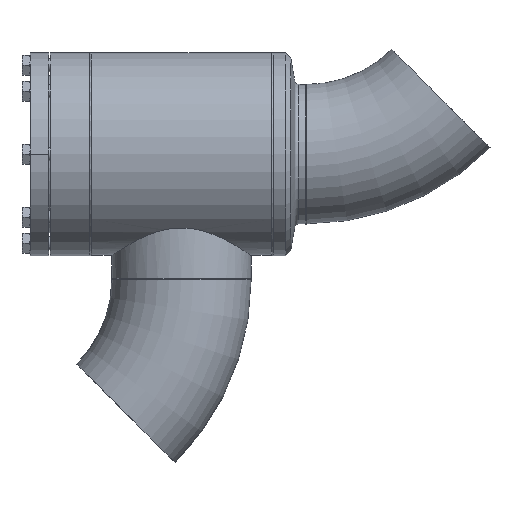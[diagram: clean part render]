
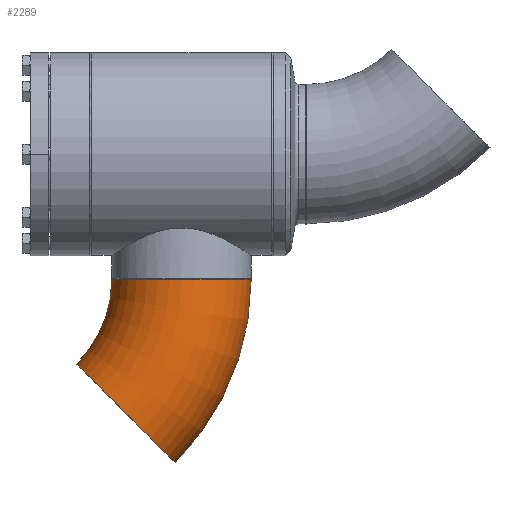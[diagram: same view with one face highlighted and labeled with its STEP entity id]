
A CAD part, left-side view. The second image highlights one B-rep face of the part: STEP entity #2289.
In plain terms, the highlighted toroidal (fillet/blend) face has major radius 229 mm and minor radius 84.15 mm.
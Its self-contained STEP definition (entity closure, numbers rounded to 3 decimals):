
#907 = CARTESIAN_POINT ( 'NONE',  ( 0., 84.15, 0. ) ) ;
#1023 = CIRCLE ( 'NONE', #1024, 313.15 ) ;
#1024 = AXIS2_PLACEMENT_3D ( 'NONE', #1025, #1026, #1027 ) ;
#1025 = CARTESIAN_POINT ( 'NONE',  ( 0., -229., 0. ) ) ;
#1026 = DIRECTION ( 'NONE',  ( 0., 0., 1. ) ) ;
#1027 = DIRECTION ( 'NONE',  ( 1., 0., 0. ) ) ;
#1155 = EDGE_CURVE ( 'NONE', #6800, #6785, #2383, .T. ) ;
#1495 = ORIENTED_EDGE ( 'NONE', *, *, #1155, .F. ) ;
#1976 = CARTESIAN_POINT ( 'NONE',  ( 102.424, -126.576, 0. ) ) ;
#2136 = EDGE_LOOP ( 'NONE', ( #1495, #6753, #6678, #6609 ) ) ;
#2168 = CARTESIAN_POINT ( 'NONE',  ( 221.43, -7.57, 0. ) ) ;
#2289 = ADVANCED_FACE ( 'NONE', ( #3743 ), #3744, .T. ) ;
#2383 = CIRCLE ( 'NONE', #2384, 84.15 ) ;
#2384 = AXIS2_PLACEMENT_3D ( 'NONE', #2385, #2386, #2387 ) ;
#2385 = CARTESIAN_POINT ( 'NONE',  ( 161.927, -67.073, 0. ) ) ;
#2386 = DIRECTION ( 'NONE',  ( 0.707, -0.707, 0. ) ) ;
#2387 = DIRECTION ( 'NONE',  ( 0., 0., -1. ) ) ;
#3701 = CIRCLE ( 'NONE', #3702, 144.85 ) ;
#3702 = AXIS2_PLACEMENT_3D ( 'NONE', #3703, #3704, #3705 ) ;
#3703 = CARTESIAN_POINT ( 'NONE',  ( 0., -229., 0. ) ) ;
#3704 = DIRECTION ( 'NONE',  ( 0., 0., 1. ) ) ;
#3705 = DIRECTION ( 'NONE',  ( 1., 0., 0. ) ) ;
#3743 = FACE_OUTER_BOUND ( 'NONE', #2136, .T. ) ;
#3744 = TOROIDAL_SURFACE ( 'NONE', #3745, 229., 84.15 ) ;
#3745 = AXIS2_PLACEMENT_3D ( 'NONE', #3746, #3747, #3748 ) ;
#3746 = CARTESIAN_POINT ( 'NONE',  ( 0., -229., 0. ) ) ;
#3747 = DIRECTION ( 'NONE',  ( 0., 0., 1. ) ) ;
#3748 = DIRECTION ( 'NONE',  ( 1., 0., 0. ) ) ;
#5064 = CARTESIAN_POINT ( 'NONE',  ( 0., -84.15, 0. ) ) ;
#5306 = CIRCLE ( 'NONE', #5308, 84.15 ) ;
#5308 = AXIS2_PLACEMENT_3D ( 'NONE', #5309, #5310, #5311 ) ;
#5309 = CARTESIAN_POINT ( 'NONE',  ( 0., 0., 0. ) ) ;
#5310 = DIRECTION ( 'NONE',  ( 1., 0., 0. ) ) ;
#5311 = DIRECTION ( 'NONE',  ( 0., 0., -1. ) ) ;
#6590 = EDGE_CURVE ( 'NONE', #6785, #6641, #3701, .T. ) ;
#6609 = ORIENTED_EDGE ( 'NONE', *, *, #6590, .F. ) ;
#6641 = VERTEX_POINT ( 'NONE', #5064 ) ;
#6658 = EDGE_CURVE ( 'NONE', #6714, #6641, #5306, .T. ) ;
#6678 = ORIENTED_EDGE ( 'NONE', *, *, #6658, .T. ) ;
#6714 = VERTEX_POINT ( 'NONE', #907 ) ;
#6727 = EDGE_CURVE ( 'NONE', #6800, #6714, #1023, .T. ) ;
#6753 = ORIENTED_EDGE ( 'NONE', *, *, #6727, .T. ) ;
#6785 = VERTEX_POINT ( 'NONE', #1976 ) ;
#6800 = VERTEX_POINT ( 'NONE', #2168 ) ;
